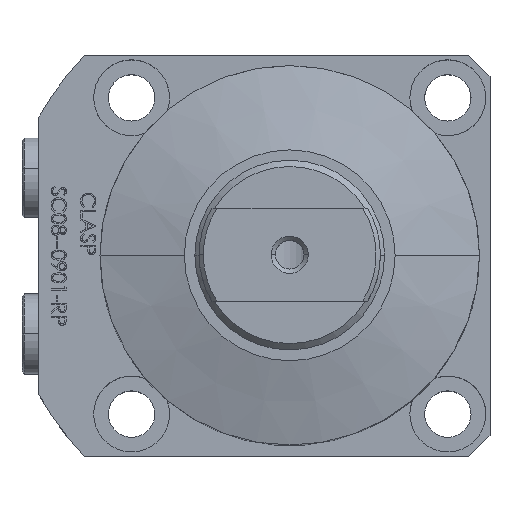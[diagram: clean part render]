
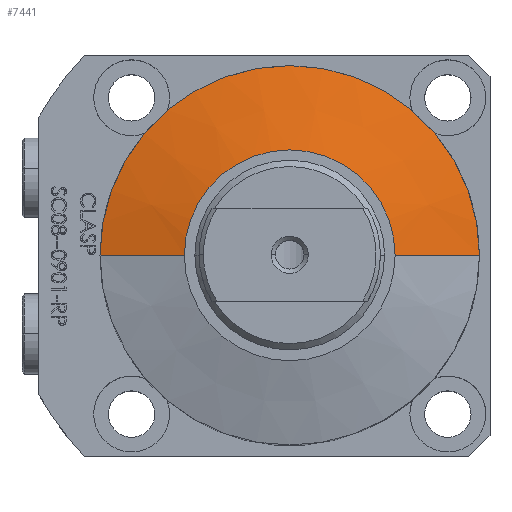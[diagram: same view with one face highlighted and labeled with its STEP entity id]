
A CAD part, top view. The second image highlights one B-rep face of the part: STEP entity #7441.
In plain terms, the highlighted conical face has half-angle 75 degrees and reference radius 122.023 mm.
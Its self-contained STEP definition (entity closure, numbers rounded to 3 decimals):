
#391 = EDGE_CURVE ( 'NONE', #12568, #9807, #14617, .T. ) ;
#932 = DIRECTION ( 'NONE',  ( -1., 0., 0. ) ) ;
#1019 = AXIS2_PLACEMENT_3D ( 'NONE', #11866, #4065, #13219 ) ;
#1322 = ORIENTED_EDGE ( 'NONE', *, *, #391, .F. ) ;
#2598 = DIRECTION ( 'NONE',  ( -1., 0., 0. ) ) ;
#2645 = DIRECTION ( 'NONE',  ( 0., 0., -1. ) ) ;
#2669 = CARTESIAN_POINT ( 'NONE',  ( 0., 0., 108.641 ) ) ;
#3439 = CARTESIAN_POINT ( 'NONE',  ( 0., 0., 88.003 ) ) ;
#4065 = DIRECTION ( 'NONE',  ( 0., 0., -1. ) ) ;
#4946 = LINE ( 'NONE', #15681, #12297 ) ;
#5358 = CARTESIAN_POINT ( 'NONE',  ( 25., 0., 114. ) ) ;
#6492 = ORIENTED_EDGE ( 'NONE', *, *, #7070, .T. ) ;
#6818 = LINE ( 'NONE', #8136, #16536 ) ;
#7070 = EDGE_CURVE ( 'NONE', #12015, #9807, #4946, .T. ) ;
#7441 = ADVANCED_FACE ( 'NONE', ( #15265 ), #11237, .T. ) ;
#7616 = EDGE_CURVE ( 'NONE', #16585, #12015, #13974, .T. ) ;
#8136 = CARTESIAN_POINT ( 'NONE',  ( -122.023, 0., 88.003 ) ) ;
#8718 = DIRECTION ( 'NONE',  ( 0., 0., -1. ) ) ;
#8738 = EDGE_LOOP ( 'NONE', ( #9828, #6492, #1322, #9062 ) ) ;
#9033 = DIRECTION ( 'NONE',  ( 0.966, 0., -0.259 ) ) ;
#9062 = ORIENTED_EDGE ( 'NONE', *, *, #13664, .F. ) ;
#9807 = VERTEX_POINT ( 'NONE', #15466 ) ;
#9828 = ORIENTED_EDGE ( 'NONE', *, *, #7616, .T. ) ;
#10070 = AXIS2_PLACEMENT_3D ( 'NONE', #3439, #8718, #932 ) ;
#11237 = CONICAL_SURFACE ( 'NONE', #10070, 122.023, 1.309 ) ;
#11866 = CARTESIAN_POINT ( 'NONE',  ( 0., 0., 114. ) ) ;
#12015 = VERTEX_POINT ( 'NONE', #5358 ) ;
#12297 = VECTOR ( 'NONE', #9033, 1000. ) ;
#12568 = VERTEX_POINT ( 'NONE', #16561 ) ;
#13219 = DIRECTION ( 'NONE',  ( -1., 0., 0. ) ) ;
#13664 = EDGE_CURVE ( 'NONE', #16585, #12568, #6818, .T. ) ;
#13974 = CIRCLE ( 'NONE', #1019, 25. ) ;
#14380 = AXIS2_PLACEMENT_3D ( 'NONE', #2669, #2645, #2598 ) ;
#14617 = CIRCLE ( 'NONE', #14380, 45. ) ;
#15265 = FACE_OUTER_BOUND ( 'NONE', #8738, .T. ) ;
#15466 = CARTESIAN_POINT ( 'NONE',  ( 45., 0., 108.641 ) ) ;
#15681 = CARTESIAN_POINT ( 'NONE',  ( 122.023, 0., 88.003 ) ) ;
#15857 = CARTESIAN_POINT ( 'NONE',  ( -25., 0., 114. ) ) ;
#16120 = DIRECTION ( 'NONE',  ( -0.966, 0., -0.259 ) ) ;
#16536 = VECTOR ( 'NONE', #16120, 1000. ) ;
#16561 = CARTESIAN_POINT ( 'NONE',  ( -45., 0., 108.641 ) ) ;
#16585 = VERTEX_POINT ( 'NONE', #15857 ) ;
